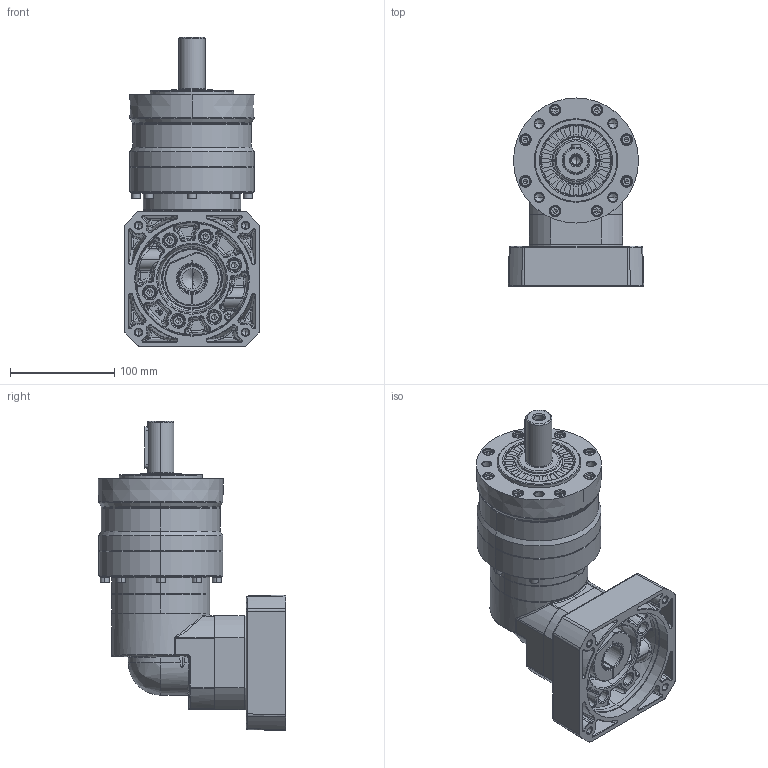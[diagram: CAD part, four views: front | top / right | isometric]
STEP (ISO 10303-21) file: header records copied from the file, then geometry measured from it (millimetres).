
FILE_DESCRIPTION (( 'STEP AP214' ), '1' );
FILE_NAME ('FER120-L2-S2-P1 24-110-145-M8-59.STEP', '2025-02-19T02:27:46', ( '微软用户' ), ( '微软中国' ), 'SwSTEP 2.0', 'SolidWorks 2021', '' );
FILE_SCHEMA (( 'AUTOMOTIVE_DESIGN' ));
Length unit declared in the file: millimetre
Products named in the file (4): 7-EVT090F眻褒眊极_stp_stp.stp; FER120-L2-S2-P1 24-110-145-M8-59; EVT090D-L1-10-80-100-M6-45; FER120M1-L2-24-110-145-M8-59
Assembly tree (7 placements, depth 2):
  FER120-L2-S2-P1 24-110-145-M8-59
    FER120M1-L2-24-110-145-M8-59
    7-EVT090F眻褒眊极_stp_stp.stp
    EVT090D-L1-10-80-100-M6-45  x5
Bounding box: 130 x 180 x 296.5 mm (x, y, z)
Volume: 242121.5 mm3; surface area: 367213.8 mm2
Topology: 1 solids, 62 shells, 2096 faces, 5104 edges, 3180 vertices
Faces by surface type: plane 637, cylinder 548, bspline 452, cone 380, torus 79
Entity records: 80611 total; most frequent: CARTESIAN_POINT 37210, ORIENTED_EDGE 9319, DIRECTION 8262, EDGE_CURVE 4735, AXIS2_PLACEMENT_3D 3304, VERTEX_POINT 3004, EDGE_LOOP 2196, FACE_OUTER_BOUND 1984
